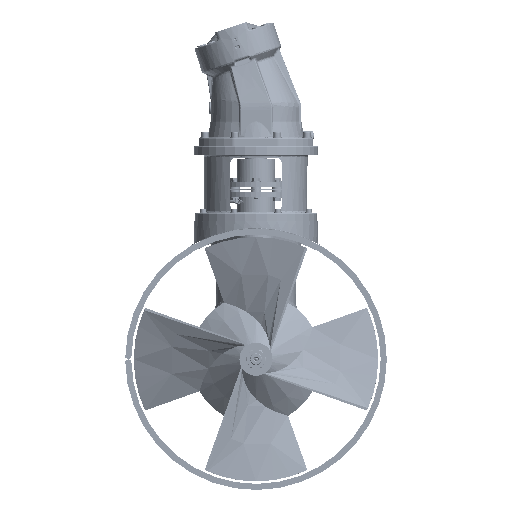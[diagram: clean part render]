
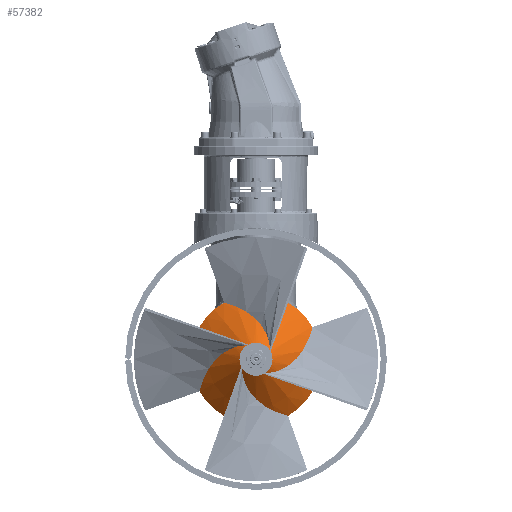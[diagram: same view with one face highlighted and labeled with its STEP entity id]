
A CAD part, left-side view. The second image highlights one B-rep face of the part: STEP entity #57382.
In plain terms, the highlighted conical face has half-angle 51 degrees and reference radius 166.208 mm.
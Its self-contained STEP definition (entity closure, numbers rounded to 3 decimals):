
#1629=CONICAL_SURFACE('',#63263,166.208,0.89);
#5013=CIRCLE('',#63261,265.);
#5014=CIRCLE('',#63262,265.);
#5015=CIRCLE('',#63264,67.416);
#5016=CIRCLE('',#63265,67.416);
#9419=FACE_OUTER_BOUND('',#12894,.T.);
#12894=EDGE_LOOP('',(#45230,#45231,#45232,#45233,#45234,#45235));
#15934=LINE('',#126348,#18443);
#18443=VECTOR('',#76787,166.208);
#24051=VERTEX_POINT('',#126339);
#24052=VERTEX_POINT('',#126340);
#24053=VERTEX_POINT('',#126344);
#24054=VERTEX_POINT('',#126345);
#31499=EDGE_CURVE('',#24051,#24052,#5013,.T.);
#31500=EDGE_CURVE('',#24052,#24051,#5014,.T.);
#31501=EDGE_CURVE('',#24053,#24054,#5015,.T.);
#31502=EDGE_CURVE('',#24054,#24053,#5016,.T.);
#31503=EDGE_CURVE('',#24054,#24052,#15934,.T.);
#45230=ORIENTED_EDGE('',*,*,#31501,.F.);
#45231=ORIENTED_EDGE('',*,*,#31502,.F.);
#45232=ORIENTED_EDGE('',*,*,#31503,.T.);
#45233=ORIENTED_EDGE('',*,*,#31500,.T.);
#45234=ORIENTED_EDGE('',*,*,#31499,.T.);
#45235=ORIENTED_EDGE('',*,*,#31503,.F.);
#57382=ADVANCED_FACE('',(#9419),#1629,.T.);
#63261=AXIS2_PLACEMENT_3D('',#126341,#76777,#76778);
#63262=AXIS2_PLACEMENT_3D('',#126342,#76779,#76780);
#63263=AXIS2_PLACEMENT_3D('',#126343,#76781,#76782);
#63264=AXIS2_PLACEMENT_3D('',#126346,#76783,#76784);
#63265=AXIS2_PLACEMENT_3D('',#126347,#76785,#76786);
#76777=DIRECTION('center_axis',(-1.,0.,0.));
#76778=DIRECTION('ref_axis',(0.,0.,
1.));
#76779=DIRECTION('center_axis',(-1.,0.,0.));
#76780=DIRECTION('ref_axis',(0.,0.,
1.));
#76781=DIRECTION('center_axis',(1.,0.,0.));
#76782=DIRECTION('ref_axis',(0.,0.,
1.));
#76783=DIRECTION('center_axis',(-1.,0.,0.));
#76784=DIRECTION('ref_axis',(0.,0.,
1.));
#76785=DIRECTION('center_axis',(-1.,0.,0.));
#76786=DIRECTION('ref_axis',(0.,0.,
1.));
#76787=DIRECTION('',(0.629,0.,-0.777));
#126339=CARTESIAN_POINT('',(-296.374,1.605,266.605));
#126340=CARTESIAN_POINT('',(-296.374,1.605,-263.395));
#126341=CARTESIAN_POINT('Origin',(-296.374,1.605,1.605));
#126342=CARTESIAN_POINT('Origin',(-296.374,1.605,1.605));
#126343=CARTESIAN_POINT('Origin',(-376.374,1.605,1.605));
#126344=CARTESIAN_POINT('',(-456.374,1.605,69.021));
#126345=CARTESIAN_POINT('',(-456.374,1.605,-65.812));
#126346=CARTESIAN_POINT('Origin',(-456.374,1.605,1.605));
#126347=CARTESIAN_POINT('Origin',(-456.374,1.605,1.605));
#126348=CARTESIAN_POINT('',(-376.374,1.605,-164.604));
